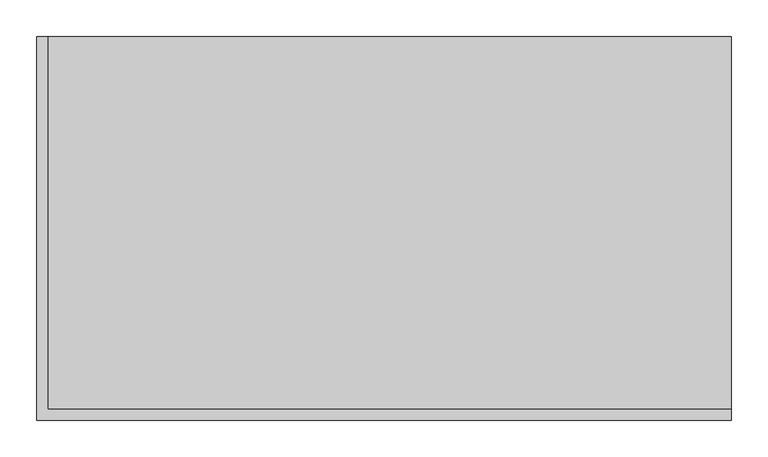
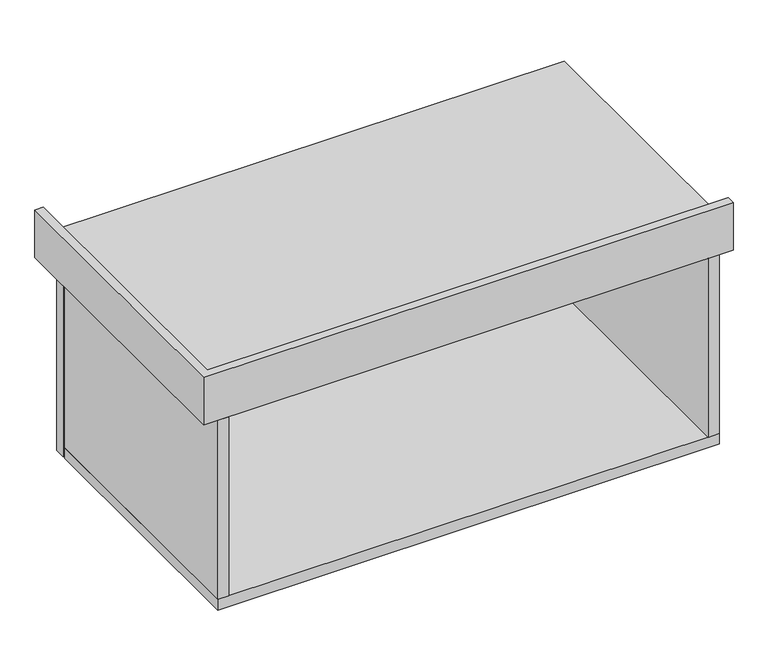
"""IFC4 building model written with IfcOpenShell, lengths in millimetres: furniture geometry, Mueble colgado 1 cajon - lavabo sobreponer : MB1-mueble baño colgado-1 cajon - 90cm."""

import ifcopenshell
import ifcopenshell.guid

model = None  # the IFC model being written
_history = None  # IfcOwnerHistory: only IFC2X3 demands one
_inside = {}  # id of a spatial element -> (the spatial element, [elements in it])
_under = {}  # id of a project, library or spatial element -> (it, [spatial elements below it])
_declared = {}  # id of a project -> (the project, [libraries it declares])
_typed = {}  # id of a type object -> (the type object, [elements of that type])
_made_of = {}  # id of a material, layer set ... -> (it, [elements and type objects made of it])


def new_model(schema):
    """Start an empty IFC model of exactly this schema.

    Asked for "IFC4X3", IfcOpenShell would pick the latest addendum, in which some entities
    have other attributes; the version numbers below select the first issue.
    IFC2X3 requires an IfcOwnerHistory on every rooted entity: one is made here for all.
    """
    global model, _history
    if schema == "IFC4X3":
        model = ifcopenshell.file(schema_version=(4, 3, 0, 0))
    else:
        model = ifcopenshell.file(schema=schema)
    _inside.clear()
    _under.clear()
    _declared.clear()
    _typed.clear()
    _made_of.clear()
    _history = None
    if model.schema == "IFC2X3":
        org = make("IfcOrganization", Name="unknown")
        user = make(
            "IfcPersonAndOrganization",
            ThePerson=make("IfcPerson", FamilyName="unknown"),
            TheOrganization=org,
        )
        app = make(
            "IfcApplication",
            ApplicationDeveloper=org,
            Version="unknown",
            ApplicationFullName="unknown",
            ApplicationIdentifier="unknown",
        )
        _history = make(
            "IfcOwnerHistory",
            OwningUser=user,
            OwningApplication=app,
            ChangeAction="ADDED",
            CreationDate=0,
        )
    return model


def make(cls, **values):
    """One entity of the class cls with the attributes given. An attribute that is None is left unset."""
    return model.create_entity(
        cls, **{name: value for name, value in values.items() if value is not None}
    )


def rooted(cls, **values):
    """An entity with a GlobalId (a new one), such as an element, a storey or a relation."""
    return make(cls, GlobalId=ifcopenshell.guid.new(), OwnerHistory=_history, **values)


def si_unit(unit_type, name, prefix=None):
    """IfcSIUnit, for example si_unit("LENGTHUNIT", "METRE", prefix="MILLI")."""
    return make("IfcSIUnit", UnitType=unit_type, Prefix=prefix, Name=name)


def assignment(units):
    """IfcUnitAssignment: the units of a project."""
    return None if units is None else make("IfcUnitAssignment", Units=units)


def point(xyz):
    """IfcCartesianPoint."""
    return None if xyz is None else make("IfcCartesianPoint", Coordinates=xyz)


def direction(xyz):
    """IfcDirection."""
    return None if xyz is None else make("IfcDirection", DirectionRatios=xyz)


def frame(location, z_axis=None, x_axis=None):
    """IfcAxis2Placement3D, a coordinate frame: its origin and axes. An axis left out is left unset."""
    return make(
        "IfcAxis2Placement3D",
        Location=point(location),
        Axis=direction(z_axis),
        RefDirection=direction(x_axis),
    )


def origin():
    """The frame at (0, 0, 0) with its axes left unset."""
    return frame((0.0, 0.0, 0.0))


def place(relative_to, where):
    """IfcLocalPlacement: puts the frame where relative to a parent placement (None: the world)."""
    return make(
        "IfcLocalPlacement", PlacementRelTo=relative_to, RelativePlacement=where
    )


def context(
    kind, dimensions, precision=None, world=None, true_north=None, identifier=None
):
    """IfcGeometricRepresentationContext, for example the 3D "Model" context."""
    return make(
        "IfcGeometricRepresentationContext",
        ContextIdentifier=identifier,
        ContextType=kind,
        CoordinateSpaceDimension=dimensions,
        Precision=precision,
        WorldCoordinateSystem=world,
        TrueNorth=true_north,
    )


def project(units=None, contexts=None):
    """IfcProject with its units and contexts."""
    return rooted(
        "IfcProject",
        Name="project",
        RepresentationContexts=contexts,
        UnitsInContext=assignment(units),
    )


def spatial(cls, under=None, at=None, **own):
    """A site, building, storey or space (cls), placed at a placement, below another one or the project."""
    s = rooted(cls, ObjectPlacement=at, **own)
    if under is not None:
        _under.setdefault(under.id(), (under, []))[1].append(s)
    return s


def polyline(points):
    """IfcPolyline through the points."""
    return make("IfcPolyline", Points=[point(p) for p in points])


def outline(outer, holes=None, kind="AREA"):
    """IfcArbitraryClosedProfileDef: a profile drawn as a closed curve; with holes, ...WithVoids."""
    if holes is None:
        return make("IfcArbitraryClosedProfileDef", ProfileType=kind, OuterCurve=outer)
    return make(
        "IfcArbitraryProfileDefWithVoids",
        ProfileType=kind,
        OuterCurve=outer,
        InnerCurves=holes,
    )


def extrude(swept, where, along, depth):
    """IfcExtrudedAreaSolid: the profile swept, set in the frame where, extruded along a direction by depth."""
    return make(
        "IfcExtrudedAreaSolid",
        SweptArea=swept,
        Position=where,
        ExtrudedDirection=direction(along),
        Depth=depth,
    )


def faces_of(points, faces, orient=None, outer=None):
    """IfcFace entities. A face is a list of loops; a loop is a list of indices into points, from 0.

    orient and outer hold one flag for each loop. By default every Orientation is true, the
    first loop of a face is its IfcFaceOuterBound and the others are IfcFaceBound.
    """
    made = []
    for i, loops in enumerate(faces):
        bounds = []
        for j, loop in enumerate(loops):
            is_outer = j == 0 if outer is None else outer[i][j]
            bounds.append(
                make(
                    "IfcFaceOuterBound" if is_outer else "IfcFaceBound",
                    Bound=make("IfcPolyLoop", Polygon=[points[k] for k in loop]),
                    Orientation=True if orient is None else orient[i][j],
                )
            )
        made.append(make("IfcFace", Bounds=bounds))
    return made


def faceted_brep(points, faces, orient=None, outer=None, voids=None):
    """IfcFacetedBrep: a solid bounded by flat faces; with voids (closed shells), ...WithVoids."""
    shared = [point(p) for p in points]
    hull = make("IfcClosedShell", CfsFaces=faces_of(shared, faces, orient, outer))
    if voids is None:
        return make("IfcFacetedBrep", Outer=hull)
    return make(
        "IfcFacetedBrepWithVoids",
        Outer=hull,
        Voids=[
            make(cls, CfsFaces=faces_of(shared, fs, o, b)) for cls, fs, o, b in voids
        ],
    )


def shape(context_of_items, identifier, shape_type, items):
    """IfcShapeRepresentation: the items that make up one representation, for example the "Body"."""
    return make(
        "IfcShapeRepresentation",
        ContextOfItems=context_of_items,
        RepresentationIdentifier=identifier,
        RepresentationType=shape_type,
        Items=items,
    )


def source(mapping_origin, context_of_items, identifier, shape_type, items):
    """IfcRepresentationMap: a shape defined once, which mapped items show again and again."""
    return make(
        "IfcRepresentationMap",
        MappingOrigin=mapping_origin,
        MappedRepresentation=shape(context_of_items, identifier, shape_type, items),
    )


def transform(
    local_origin,
    x_axis=None,
    y_axis=None,
    z_axis=None,
    scale=None,
    scale2=None,
    scale3=None,
    uniform=True,
):
    """IfcCartesianTransformationOperator3D, or its non-uniform kind. x_axis, y_axis, z_axis: its Axis1, 2, 3."""
    if uniform:
        return make(
            "IfcCartesianTransformationOperator3D",
            Axis1=direction(x_axis),
            Axis2=direction(y_axis),
            LocalOrigin=point(local_origin),
            Scale=scale,
            Axis3=direction(z_axis),
        )
    return make(
        "IfcCartesianTransformationOperator3DnonUniform",
        Axis1=direction(x_axis),
        Axis2=direction(y_axis),
        LocalOrigin=point(local_origin),
        Scale=scale,
        Axis3=direction(z_axis),
        Scale2=scale2,
        Scale3=scale3,
    )


def mapped(mapping_source, mapping_target):
    """IfcMappedItem: shows the shape of a source again, moved by a transform."""
    return make(
        "IfcMappedItem", MappingSource=mapping_source, MappingTarget=mapping_target
    )


def made_of(thing, what):
    """Note that an element or type object is made of a material, layer set ...; save() writes the relation."""
    if what is not None:
        _made_of.setdefault(what.id(), (what, []))[1].append(thing)
    return thing


def element(
    cls,
    number,
    at=None,
    inside=None,
    cuts=None,
    type_object=None,
    material=None,
    context=None,
    identifier="Body",
    shape_type=None,
    held_by="IfcProductDefinitionShape",
    body=None,
    shapes=None,
    **own,
):
    """One element of the class cls, such as IfcWall. Its Tag is "e" and its number.

    at: its placement. inside: the storey or other place that contains it. cuts: it is an
    opening in that element (IfcRelVoidsElement). A single representation is given by context,
    identifier, shape_type and body (its items); several are given by shapes. held_by: the class
    of the entity that holds the representations. save() writes the other relations.
    """
    e = rooted(cls, Tag="e%d" % number, ObjectPlacement=at, **own)
    if body is not None:
        shapes = [shape(context, identifier, shape_type, body)]
    if shapes is not None:
        e.Representation = make(held_by, Representations=shapes)
    if inside is not None:
        _inside.setdefault(inside.id(), (inside, []))[1].append(e)
    if cuts is not None:
        rooted(
            "IfcRelVoidsElement", RelatingBuildingElement=cuts, RelatedOpeningElement=e
        )
    if type_object is not None:
        _typed.setdefault(type_object.id(), (type_object, []))[1].append(e)
    return made_of(e, material)


def aggregate(whole, parts):
    """IfcRelAggregates: a whole, such as a stair, and the parts it consists of."""
    return rooted("IfcRelAggregates", RelatingObject=whole, RelatedObjects=parts)


def save(model, path):
    """Write the relations noted so far, then the file.

    IfcRelAggregates (storeys below a building ...), IfcRelContainedInSpatialStructure (elements
    in a storey), IfcRelDefinesByType, IfcRelAssociatesMaterial and IfcRelDeclares: one each for
    every whole, place, type object, material and project.
    """
    for whole, parts in _under.values():
        aggregate(whole, parts)
    for where, things in _inside.values():
        rooted(
            "IfcRelContainedInSpatialStructure",
            RelatedElements=things,
            RelatingStructure=where,
        )
    for kind, things in _typed.values():
        rooted("IfcRelDefinesByType", RelatedObjects=things, RelatingType=kind)
    for what, things in _made_of.values():
        rooted("IfcRelAssociatesMaterial", RelatedObjects=things, RelatingMaterial=what)
    for by, libraries in _declared.values():
        rooted("IfcRelDeclares", RelatingContext=by, RelatedDefinitions=libraries)
    model.write(path)


def furniture_6c499260(model_context):
    return source(origin(), model_context, "Body", "SolidModel", [
        faceted_brep([(-350.0, 535.0, 800.0), (-335.0, 535.0, 800.0), (-335.0, 535.0, 750.0), (600.0, 535.0, 750.0), (600.0, 535.0, 710.0), (-350.0, 535.0, 710.0), (-350.0, 10.0, 800.0), (600.0, 10.0, 800.0), (600.0, 25.0, 800.0), (-335.0, 25.0, 800.0), (-335.0, 25.0, 750.0), (-350.0, 10.0, 710.0), (600.0, 25.0, 750.0), (600.0, 10.0, 710.0)], [[[0, 1, 2, 3, 4, 5]], [[1, 0, 6, 7, 8, 9]], [[2, 1, 9, 10]], [[0, 5, 11, 6]], [[9, 8, 12, 10]], [[7, 6, 11, 13]], [[8, 7, 13, 4, 3, 12]], [[3, 2, 10, 12]], [[4, 13, 11, 5]]]),
        extrude(outline(polyline([(575.0, 510.0), (575.0, 490.0), (-325.0, 490.0), (-325.0, 510.0), (575.0, 510.0)])), frame((0.0, 0.0, 350.0), z_axis=(0.0, 0.0, 1.0), x_axis=(1.0, 0.0, 0.0)), (0.0, 0.0, 1.0), 350.0),
        extrude(outline(polyline([(575.0, 10.0), (555.0, 10.0), (555.0, 485.0), (575.0, 485.0), (575.0, 10.0)])), frame((0.0, 0.0, 370.0), z_axis=(0.0, 0.0, 1.0), x_axis=(1.0, 0.0, 0.0)), (0.0, 0.0, 1.0), 340.0),
        extrude(outline(polyline([(-305.0, 10.0), (-325.0, 10.0), (-325.0, 485.0), (-305.0, 485.0), (-305.0, 10.0)])), frame((0.0, 0.0, 370.0), z_axis=(0.0, 0.0, 1.0), x_axis=(1.0, 0.0, 0.0)), (0.0, 0.0, 1.0), 340.0),
        extrude(outline(polyline([(575.0, 485.0), (575.0, 10.0), (-325.0, 10.0), (-325.0, 485.0), (575.0, 485.0)])), frame((0.0, 0.0, 350.0), z_axis=(0.0, 0.0, 1.0), x_axis=(1.0, 0.0, 0.0)), (0.0, 0.0, 1.0), 20.0),
    ])


if __name__ == "__main__":
    model = new_model("IFC4")
    model_context = context("Model", 3, world=origin())
    ifc_project = project(units=[si_unit("LENGTHUNIT", "METRE", prefix="MILLI")], contexts=[model_context])
    site = spatial("IfcSite", under=ifc_project)
    building = spatial("IfcBuilding", under=site)
    placement = place(None, origin())
    furniture_shape = furniture_6c499260(model_context)
    element("IfcFurniture", 1, ObjectType="Mueble colgado 1 cajon - lavabo sobreponer : MB1-mueble baño colgado-1 cajon - 90cm", at=placement, inside=building, context=model_context, shape_type="MappedRepresentation", body=[
        mapped(furniture_shape, transform((0.0, 0.0, 0.0), x_axis=(1.0, 0.0, 0.0), y_axis=(0.0, 1.0, 0.0), z_axis=(0.0, 0.0, 1.0))),
    ])
    save(model, "model.ifc")
